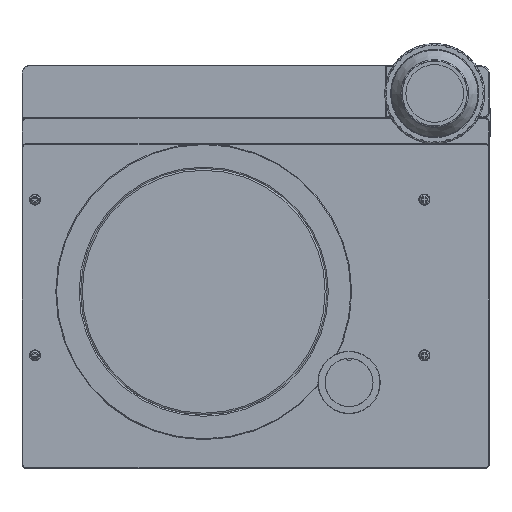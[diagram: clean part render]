
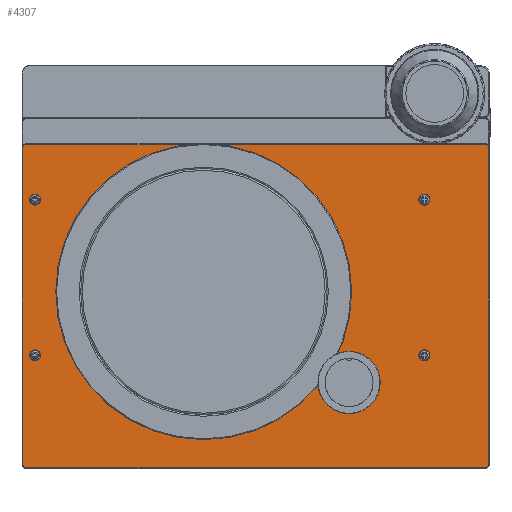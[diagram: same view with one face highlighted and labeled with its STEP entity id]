
A CAD part, top view. The second image highlights one B-rep face of the part: STEP entity #4307.
In plain terms, the highlighted planar face has unit normal (0, 0, 1).
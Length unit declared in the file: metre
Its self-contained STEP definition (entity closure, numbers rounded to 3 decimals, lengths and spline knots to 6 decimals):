
#4307=ADVANCED_FACE('36:15227',(#11434,#11435,#11436,#11437,#11438,#11439,#11440),#11441,.T.);
#8545=EDGE_CURVE('36:20888',#17355,#17349,#17358,.T.);
#8553=EDGE_CURVE('36:20906',#17366,#17360,#17369,.T.);
#8555=EDGE_CURVE('36:20921',#17371,#17372,#17373,.T.);
#8565=EDGE_CURVE('36:20936',#17382,#17379,#17385,.T.);
#8571=EDGE_CURVE('36:20876',#17379,#17355,#17391,.T.);
#8573=EDGE_CURVE('36:20930',#17372,#17382,#17393,.T.);
#8575=EDGE_CURVE('36:20912',#17360,#17371,#17395,.T.);
#8577=EDGE_CURVE('36:20897',#17349,#17366,#17397,.T.);
#8579=EDGE_CURVE('36:20954',#17399,#17399,#17400,.T.);
#8581=EDGE_CURVE('36:20957',#17402,#17402,#17403,.T.);
#8583=EDGE_CURVE('36:20960',#17405,#17405,#17406,.T.);
#8585=EDGE_CURVE('36:20963',#17408,#17408,#17409,.T.);
#8587=EDGE_CURVE('36:20966',#17411,#17411,#17412,.T.);
#8589=EDGE_CURVE('36:20969',#17414,#17414,#17415,.T.);
#11434=FACE_OUTER_BOUND('',#20924,.T.);
#11435=FACE_BOUND('',#20925,.T.);
#11436=FACE_BOUND('',#20926,.T.);
#11437=FACE_BOUND('',#20927,.T.);
#11438=FACE_BOUND('',#20928,.T.);
#11439=FACE_BOUND('',#20929,.T.);
#11440=FACE_BOUND('',#20930,.T.);
#11441=PLANE('',#20931);
#17349=VERTEX_POINT('',#32803);
#17355=VERTEX_POINT('',#32811);
#17358=CIRCLE('',#32815,0.0012);
#17360=VERTEX_POINT('',#32818);
#17366=VERTEX_POINT('',#32826);
#17369=CIRCLE('',#32830,0.0012);
#17371=VERTEX_POINT('',#32833);
#17372=VERTEX_POINT('',#32834);
#17373=CIRCLE('',#32835,0.0012);
#17379=VERTEX_POINT('',#32844);
#17382=VERTEX_POINT('',#32848);
#17385=CIRCLE('',#32852,0.0012);
#17391=LINE('',#32863,#32864);
#17393=LINE('',#32867,#32868);
#17395=LINE('',#32871,#32872);
#17397=LINE('',#32875,#32876);
#17399=VERTEX_POINT('',#32879);
#17400=CIRCLE('',#32880,0.00215);
#17402=VERTEX_POINT('',#32883);
#17403=CIRCLE('',#32884,0.00215);
#17405=VERTEX_POINT('',#32887);
#17406=CIRCLE('',#32888,0.00215);
#17408=VERTEX_POINT('',#32891);
#17409=CIRCLE('',#32892,0.00215);
#17411=VERTEX_POINT('',#32895);
#17412=CIRCLE('',#32896,0.0475);
#17414=VERTEX_POINT('',#32899);
#17415=CIRCLE('',#32900,0.009);
#20924=EDGE_LOOP('',(#40231,#40232,#40233,#40234,#40235,#40236,#40237,#40238));
#20925=EDGE_LOOP('',(#40239));
#20926=EDGE_LOOP('',(#40240));
#20927=EDGE_LOOP('',(#40241));
#20928=EDGE_LOOP('',(#40242));
#20929=EDGE_LOOP('',(#40243));
#20930=EDGE_LOOP('',(#40244));
#20931=AXIS2_PLACEMENT_3D('',#40245,#40246,#40247);
#32803=CARTESIAN_POINT('',(0.0885,-0.055752,0.0345));
#32811=CARTESIAN_POINT('',(0.0897,-0.054552,0.0345));
#32815=AXIS2_PLACEMENT_3D('',#45449,#45450,#45451);
#32818=CARTESIAN_POINT('',(-0.0897,-0.054552,0.0345));
#32826=CARTESIAN_POINT('',(-0.0885,-0.055752,0.0345));
#32830=AXIS2_PLACEMENT_3D('',#45461,#45462,#45463);
#32833=CARTESIAN_POINT('',(-0.0897,0.067448,0.0345));
#32834=CARTESIAN_POINT('',(-0.0885,0.068648,0.0345));
#32835=AXIS2_PLACEMENT_3D('',#45464,#45465,#45466);
#32844=CARTESIAN_POINT('',(0.0897,0.067448,0.0345));
#32848=CARTESIAN_POINT('',(0.0885,0.068648,0.0345));
#32852=AXIS2_PLACEMENT_3D('',#45479,#45480,#45481);
#32863=CARTESIAN_POINT('',(0.0897,0.011448,0.0345));
#32864=VECTOR('',#45484,1.0);
#32867=CARTESIAN_POINT('',(0.,0.068648,0.0345));
#32868=VECTOR('',#45485,1.0);
#32871=CARTESIAN_POINT('',(-0.0897,0.011448,0.0345));
#32872=VECTOR('',#45486,1.0);
#32875=CARTESIAN_POINT('',(0.,-0.055752,0.0345));
#32876=VECTOR('',#45487,1.0);
#32879=CARTESIAN_POINT('',(-0.08285,0.047448,0.0345));
#32880=AXIS2_PLACEMENT_3D('',#45488,#45489,#45490);
#32883=CARTESIAN_POINT('',(-0.08285,-0.012552,0.0345));
#32884=AXIS2_PLACEMENT_3D('',#45491,#45492,#45493);
#32887=CARTESIAN_POINT('',(0.06715,-0.012552,0.0345));
#32888=AXIS2_PLACEMENT_3D('',#45494,#45495,#45496);
#32891=CARTESIAN_POINT('',(0.06715,0.047448,0.0345));
#32892=AXIS2_PLACEMENT_3D('',#45497,#45498,#45499);
#32895=CARTESIAN_POINT('',(0.0275,0.011948,0.0345));
#32896=AXIS2_PLACEMENT_3D('',#45500,#45501,#45502);
#32899=CARTESIAN_POINT('',(0.045,-0.023052,0.0345));
#32900=AXIS2_PLACEMENT_3D('',#45503,#45504,#45505);
#40231=ORIENTED_EDGE('',*,*,#8571,.F.);
#40232=ORIENTED_EDGE('',*,*,#8565,.F.);
#40233=ORIENTED_EDGE('',*,*,#8573,.F.);
#40234=ORIENTED_EDGE('',*,*,#8555,.F.);
#40235=ORIENTED_EDGE('',*,*,#8575,.F.);
#40236=ORIENTED_EDGE('',*,*,#8553,.F.);
#40237=ORIENTED_EDGE('',*,*,#8577,.F.);
#40238=ORIENTED_EDGE('',*,*,#8545,.F.);
#40239=ORIENTED_EDGE('',*,*,#8579,.F.);
#40240=ORIENTED_EDGE('',*,*,#8581,.F.);
#40241=ORIENTED_EDGE('',*,*,#8583,.F.);
#40242=ORIENTED_EDGE('',*,*,#8585,.F.);
#40243=ORIENTED_EDGE('',*,*,#8587,.F.);
#40244=ORIENTED_EDGE('',*,*,#8589,.F.);
#40245=CARTESIAN_POINT('',(0.,0.011448,0.0345));
#40246=DIRECTION('',(0.0,0.0,1.0));
#40247=DIRECTION('',(1.0,0.0,0.0));
#45449=CARTESIAN_POINT('',(0.0885,-0.054552,0.0345));
#45450=DIRECTION('',(0.0,-0.0,-1.0));
#45451=DIRECTION('',(0.707,-0.707,0.0));
#45461=CARTESIAN_POINT('',(-0.0885,-0.054552,0.0345));
#45462=DIRECTION('',(-0.0,0.0,-1.0));
#45463=DIRECTION('',(-0.707,-0.707,0.0));
#45464=CARTESIAN_POINT('',(-0.0885,0.067448,0.0345));
#45465=DIRECTION('',(0.0,0.0,-1.0));
#45466=DIRECTION('',(-0.707,0.707,0.0));
#45479=CARTESIAN_POINT('',(0.0885,0.067448,0.0345));
#45480=DIRECTION('',(0.0,0.0,-1.0));
#45481=DIRECTION('',(0.707,0.707,0.0));
#45484=DIRECTION('',(0.0,-1.0,0.0));
#45485=DIRECTION('',(1.0,-0.0,-0.0));
#45486=DIRECTION('',(0.0,1.0,-0.0));
#45487=DIRECTION('',(-1.0,0.,0.0));
#45488=CARTESIAN_POINT('',(-0.085,0.047448,0.0345));
#45489=DIRECTION('',(0.0,0.0,1.0));
#45490=DIRECTION('',(1.0,0.0,-0.0));
#45491=CARTESIAN_POINT('',(-0.085,-0.012552,0.0345));
#45492=DIRECTION('',(0.0,0.0,1.0));
#45493=DIRECTION('',(1.0,0.0,-0.0));
#45494=CARTESIAN_POINT('',(0.065,-0.012552,0.0345));
#45495=DIRECTION('',(0.0,0.0,1.0));
#45496=DIRECTION('',(1.0,0.0,-0.0));
#45497=CARTESIAN_POINT('',(0.065,0.047448,0.0345));
#45498=DIRECTION('',(0.0,0.0,1.0));
#45499=DIRECTION('',(1.0,0.0,-0.0));
#45500=CARTESIAN_POINT('',(-0.02,0.011948,0.0345));
#45501=DIRECTION('',(0.0,0.0,1.0));
#45502=DIRECTION('',(1.0,0.0,-0.0));
#45503=CARTESIAN_POINT('',(0.036,-0.023052,0.0345));
#45504=DIRECTION('',(0.0,0.0,1.0));
#45505=DIRECTION('',(1.0,0.0,0.0));
